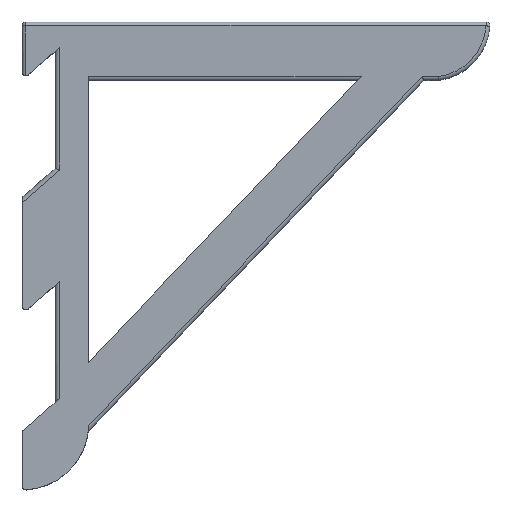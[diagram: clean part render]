
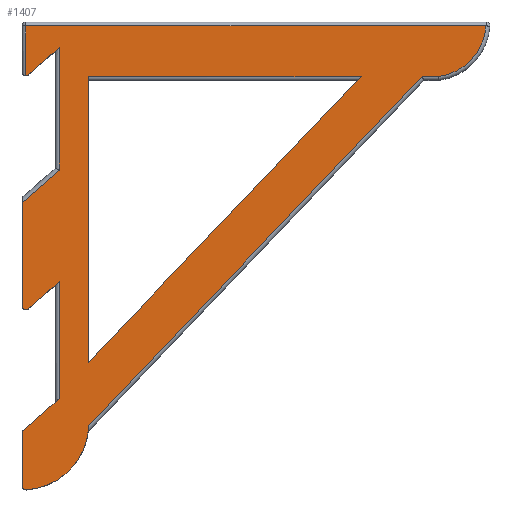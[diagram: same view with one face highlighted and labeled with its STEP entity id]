
A CAD part, top view. The second image highlights one B-rep face of the part: STEP entity #1407.
In plain terms, the highlighted planar face has unit normal (0, 0, 1).
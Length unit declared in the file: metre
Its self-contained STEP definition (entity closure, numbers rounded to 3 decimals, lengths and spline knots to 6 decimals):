
#80=CIRCLE('',#1500,0.021759);
#83=CIRCLE('',#1521,0.00127);
#84=CIRCLE('',#1522,0.00127);
#85=CIRCLE('',#1523,0.00127);
#86=CIRCLE('',#1524,0.017929);
#87=CIRCLE('',#1525,0.00127);
#271=ORIENTED_EDGE('',*,*,#665,.F.);
#272=ORIENTED_EDGE('',*,*,#691,.T.);
#273=ORIENTED_EDGE('',*,*,#692,.T.);
#274=ORIENTED_EDGE('',*,*,#609,.F.);
#275=ORIENTED_EDGE('',*,*,#693,.T.);
#276=ORIENTED_EDGE('',*,*,#676,.F.);
#277=ORIENTED_EDGE('',*,*,#694,.T.);
#278=ORIENTED_EDGE('',*,*,#682,.F.);
#279=ORIENTED_EDGE('',*,*,#695,.T.);
#280=ORIENTED_EDGE('',*,*,#684,.F.);
#281=ORIENTED_EDGE('',*,*,#696,.T.);
#282=ORIENTED_EDGE('',*,*,#643,.T.);
#283=ORIENTED_EDGE('',*,*,#697,.T.);
#284=ORIENTED_EDGE('',*,*,#698,.T.);
#285=ORIENTED_EDGE('',*,*,#699,.T.);
#286=ORIENTED_EDGE('',*,*,#700,.T.);
#287=ORIENTED_EDGE('',*,*,#701,.T.);
#288=ORIENTED_EDGE('',*,*,#702,.T.);
#289=ORIENTED_EDGE('',*,*,#703,.T.);
#290=ORIENTED_EDGE('',*,*,#689,.F.);
#291=ORIENTED_EDGE('',*,*,#635,.F.);
#609=EDGE_CURVE('',#824,#825,#954,.T.);
#635=EDGE_CURVE('',#850,#846,#965,.T.);
#643=EDGE_CURVE('',#853,#857,#80,.T.);
#665=EDGE_CURVE('',#876,#872,#989,.T.);
#676=EDGE_CURVE('',#885,#881,#999,.T.);
#682=EDGE_CURVE('',#889,#890,#1005,.T.);
#684=EDGE_CURVE('',#891,#892,#1006,.T.);
#689=EDGE_CURVE('',#846,#895,#1011,.T.);
#691=EDGE_CURVE('',#876,#896,#1012,.T.);
#692=EDGE_CURVE('',#896,#825,#1013,.F.);
#693=EDGE_CURVE('',#824,#881,#83,.T.);
#694=EDGE_CURVE('',#885,#890,#1014,.F.);
#695=EDGE_CURVE('',#889,#892,#84,.T.);
#696=EDGE_CURVE('',#891,#853,#85,.T.);
#697=EDGE_CURVE('',#857,#897,#1015,.F.);
#698=EDGE_CURVE('',#897,#898,#1016,.T.);
#699=EDGE_CURVE('',#898,#899,#86,.T.);
#700=EDGE_CURVE('',#899,#900,#1017,.F.);
#701=EDGE_CURVE('',#900,#901,#1018,.F.);
#702=EDGE_CURVE('',#901,#872,#87,.T.);
#703=EDGE_CURVE('',#850,#895,#1019,.T.);
#824=VERTEX_POINT('',#2009);
#825=VERTEX_POINT('',#2010);
#846=VERTEX_POINT('',#2078);
#850=VERTEX_POINT('',#2085);
#853=VERTEX_POINT('',#2095);
#857=VERTEX_POINT('',#2107);
#872=VERTEX_POINT('',#2147);
#876=VERTEX_POINT('',#2154);
#881=VERTEX_POINT('',#2170);
#885=VERTEX_POINT('',#2177);
#889=VERTEX_POINT('',#2189);
#890=VERTEX_POINT('',#2191);
#891=VERTEX_POINT('',#2195);
#892=VERTEX_POINT('',#2196);
#895=VERTEX_POINT('',#2205);
#896=VERTEX_POINT('',#2209);
#897=VERTEX_POINT('',#2216);
#898=VERTEX_POINT('',#2218);
#899=VERTEX_POINT('',#2220);
#900=VERTEX_POINT('',#2222);
#901=VERTEX_POINT('',#2224);
#954=LINE('',#2008,#1067);
#965=LINE('',#2086,#1078);
#989=LINE('',#2155,#1102);
#999=LINE('',#2178,#1112);
#1005=LINE('',#2190,#1118);
#1006=LINE('',#2194,#1119);
#1011=LINE('',#2204,#1124);
#1012=LINE('',#2208,#1125);
#1013=LINE('',#2210,#1126);
#1014=LINE('',#2212,#1127);
#1015=LINE('',#2215,#1128);
#1016=LINE('',#2217,#1129);
#1017=LINE('',#2221,#1130);
#1018=LINE('',#2223,#1131);
#1019=LINE('',#2226,#1132);
#1067=VECTOR('',#1629,1.);
#1078=VECTOR('',#1648,1.);
#1102=VECTOR('',#1698,1.);
#1112=VECTOR('',#1716,1.);
#1118=VECTOR('',#1726,1.);
#1119=VECTOR('',#1731,1.);
#1124=VECTOR('',#1738,1.);
#1125=VECTOR('',#1743,1.);
#1126=VECTOR('',#1744,1.);
#1127=VECTOR('',#1747,1.);
#1128=VECTOR('',#1752,1.);
#1129=VECTOR('',#1753,1.);
#1130=VECTOR('',#1756,1.);
#1131=VECTOR('',#1757,1.);
#1132=VECTOR('',#1760,1.);
#1198=EDGE_LOOP('',(#271,#272,#273,#274,#275,#276,#277,#278,#279,#280,#281,
#282,#283,#284,#285,#286,#287,#288));
#1199=EDGE_LOOP('',(#289,#290,#291));
#1291=FACE_BOUND('',#1198,.T.);
#1292=FACE_BOUND('',#1199,.T.);
#1381=PLANE('',#1520);
#1407=ADVANCED_FACE('',(#1291,#1292),#1381,.T.);
#1500=AXIS2_PLACEMENT_3D('',#2108,#1660,#1661);
#1520=AXIS2_PLACEMENT_3D('',#2207,#1741,#1742);
#1521=AXIS2_PLACEMENT_3D('',#2211,#1745,#1746);
#1522=AXIS2_PLACEMENT_3D('',#2213,#1748,#1749);
#1523=AXIS2_PLACEMENT_3D('',#2214,#1750,#1751);
#1524=AXIS2_PLACEMENT_3D('',#2219,#1754,#1755);
#1525=AXIS2_PLACEMENT_3D('',#2225,#1758,#1759);
#1629=DIRECTION('',(0.,1.,0.));
#1648=DIRECTION('',(0.,-1.,0.));
#1660=DIRECTION('',(0.,0.,1.));
#1661=DIRECTION('',(1.,0.,0.));
#1698=DIRECTION('',(-0.75,-0.662,0.));
#1716=DIRECTION('',(-0.75,-0.662,0.));
#1726=DIRECTION('',(0.75,0.662,0.));
#1731=DIRECTION('',(0.,1.,0.));
#1738=DIRECTION('',(0.691,0.723,0.));
#1741=DIRECTION('',(0.,0.,1.));
#1742=DIRECTION('',(1.,0.,0.));
#1743=DIRECTION('',(0.,-1.,0.));
#1744=DIRECTION('',(0.75,0.662,0.));
#1745=DIRECTION('',(0.,0.,1.));
#1746=DIRECTION('',(1.,0.,0.));
#1747=DIRECTION('',(0.,1.,0.));
#1748=DIRECTION('',(0.,0.,1.));
#1749=DIRECTION('',(1.,0.,0.));
#1750=DIRECTION('',(0.,0.,1.));
#1751=DIRECTION('',(1.,0.,0.));
#1752=DIRECTION('',(-0.691,-0.723,0.));
#1753=DIRECTION('',(1.,0.,0.));
#1754=DIRECTION('',(0.,0.,1.));
#1755=DIRECTION('',(1.,0.,0.));
#1756=DIRECTION('',(1.,0.,0.));
#1757=DIRECTION('',(0.,1.,0.));
#1758=DIRECTION('',(0.,0.,1.));
#1759=DIRECTION('',(1.,0.,0.));
#1760=DIRECTION('',(1.,0.,0.));
#2008=CARTESIAN_POINT('',(-0.010795,0.004763,0.02159));
#2009=CARTESIAN_POINT('',(-0.010795,-0.016236,0.02159));
#2010=CARTESIAN_POINT('',(-0.010795,0.017356,0.02159));
#2078=CARTESIAN_POINT('',(0.010795,-0.034556,0.02159));
#2085=CARTESIAN_POINT('',(0.010795,0.05842,0.02159));
#2086=CARTESIAN_POINT('',(0.010795,-0.017278,0.02159));
#2095=CARTESIAN_POINT('',(-0.009446,-0.076158,0.02159));
#2107=CARTESIAN_POINT('',(0.010953,-0.055146,0.02159));
#2108=CARTESIAN_POINT('',(-0.010795,-0.054441,0.02159));
#2147=CARTESIAN_POINT('',(-0.008685,0.059012,0.02159));
#2154=CARTESIAN_POINT('',(0.00127,0.067796,0.02159));
#2155=CARTESIAN_POINT('',(-0.005398,0.061913,0.02159));
#2170=CARTESIAN_POINT('',(-0.008685,-0.017188,0.02159));
#2177=CARTESIAN_POINT('',(0.00127,-0.008404,0.02159));
#2178=CARTESIAN_POINT('',(-0.005398,-0.014288,0.02159));
#2189=CARTESIAN_POINT('',(-0.010365,-0.056771,0.02159));
#2190=CARTESIAN_POINT('',(-0.005398,-0.052388,0.02159));
#2191=CARTESIAN_POINT('',(0.00127,-0.046504,0.02159));
#2194=CARTESIAN_POINT('',(-0.010795,-0.066675,0.02159));
#2195=CARTESIAN_POINT('',(-0.010795,-0.074891,0.02159));
#2196=CARTESIAN_POINT('',(-0.010795,-0.057723,0.02159));
#2204=CARTESIAN_POINT('',(0.05461,0.011297,0.02159));
#2205=CARTESIAN_POINT('',(0.099639,0.05842,0.02159));
#2207=CARTESIAN_POINT('',(0.065405,0.,0.02159));
#2208=CARTESIAN_POINT('',(0.00127,0.028575,0.02159));
#2209=CARTESIAN_POINT('',(0.00127,0.028002,0.02159));
#2210=CARTESIAN_POINT('',(0.023438,0.047562,0.02159));
#2211=CARTESIAN_POINT('',(-0.009525,-0.016236,0.02159));
#2212=CARTESIAN_POINT('',(0.00127,0.,0.02159));
#2213=CARTESIAN_POINT('',(-0.009525,-0.057723,0.02159));
#2214=CARTESIAN_POINT('',(-0.009525,-0.074891,0.02159));
#2215=CARTESIAN_POINT('',(0.064487,0.000877,0.02159));
#2216=CARTESIAN_POINT('',(0.119472,0.05842,0.02159));
#2217=CARTESIAN_POINT('',(0.124796,0.05842,0.02159));
#2218=CARTESIAN_POINT('',(0.124715,0.05842,0.02159));
#2219=CARTESIAN_POINT('',(0.122406,0.0762,0.02159));
#2220=CARTESIAN_POINT('',(0.14029,0.07493,0.02159));
#2221=CARTESIAN_POINT('',(0.065405,0.07493,0.02159));
#2222=CARTESIAN_POINT('',(-0.009525,0.07493,0.02159));
#2223=CARTESIAN_POINT('',(-0.009525,0.,0.02159));
#2224=CARTESIAN_POINT('',(-0.009525,0.058694,0.02159));
#2225=CARTESIAN_POINT('',(-0.009525,0.059964,0.02159));
#2226=CARTESIAN_POINT('',(0.098425,0.05842,0.02159));
